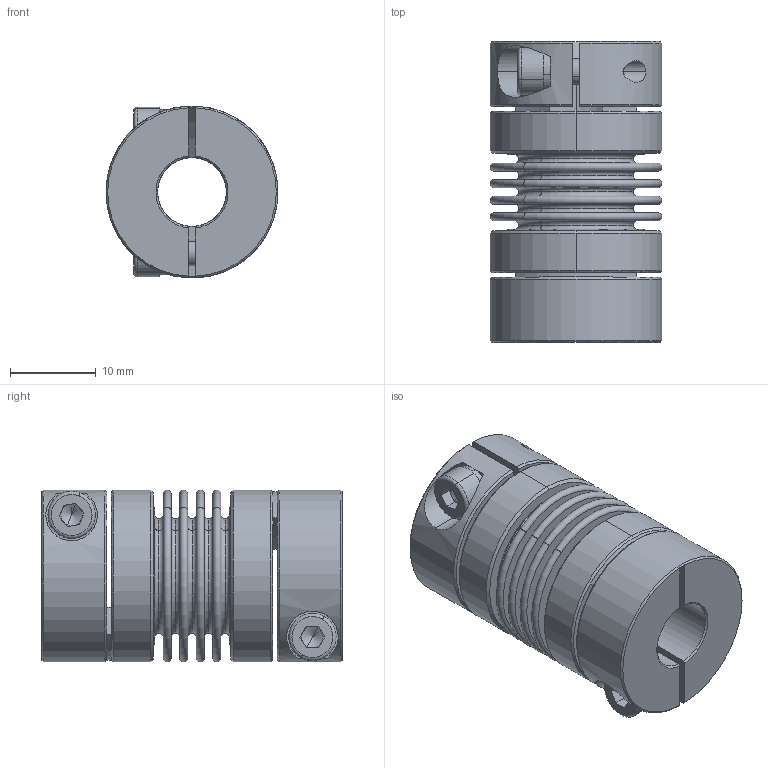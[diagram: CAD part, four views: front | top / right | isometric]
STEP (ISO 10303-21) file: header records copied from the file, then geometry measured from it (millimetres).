
FILE_DESCRIPTION (( 'STEP AP203' ), '1' );
FILE_NAME ('LB-B-D20L34-8-9.525.STEP', '2021-11-04T01:46:24', ( '' ), ( '' ), 'SwSTEP 2.0', 'SolidWorks 2018', '' );
FILE_SCHEMA (( 'CONFIG_CONTROL_DESIGN' ));
Length unit declared in the file: millimetre
Products named in the file (2): LB-B-D20L34-8-9.525; 零件4^LB-B-D20L34 波纹管联轴器-组装体
Assembly tree (1 placements, depth 2):
  LB-B-D20L34-8-9.525
    零件4^LB-B-D20L34 波纹管联轴器-组装体
Bounding box: 20 x 35 x 20 mm (x, y, z)
Volume: 5475.4 mm3; surface area: 9437.9 mm2
Topology: 1 solids, 1 shells, 246 faces, 566 edges, 350 vertices
Faces by surface type: plane 84, torus 68, cylinder 60, cone 34
Entity records: 7446 total; most frequent: CARTESIAN_POINT 1462, DIRECTION 1370, ORIENTED_EDGE 1124, AXIS2_PLACEMENT_3D 602, EDGE_CURVE 562, CIRCLE 352, VERTEX_POINT 350, EDGE_LOOP 288
